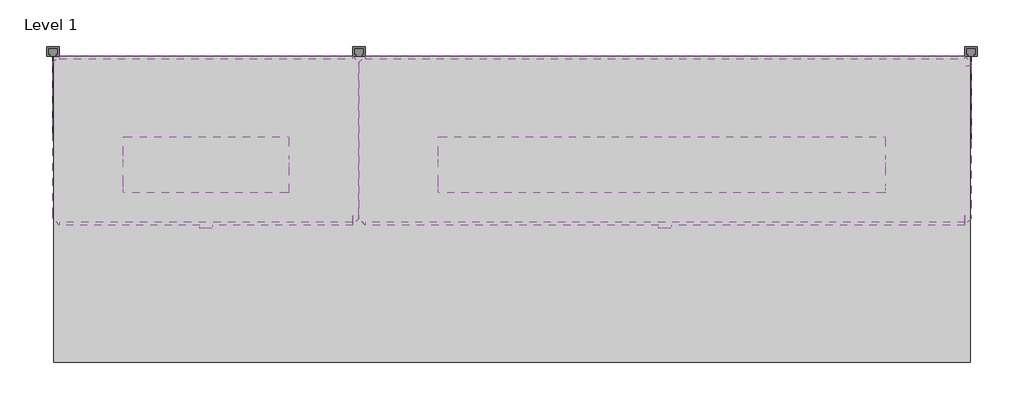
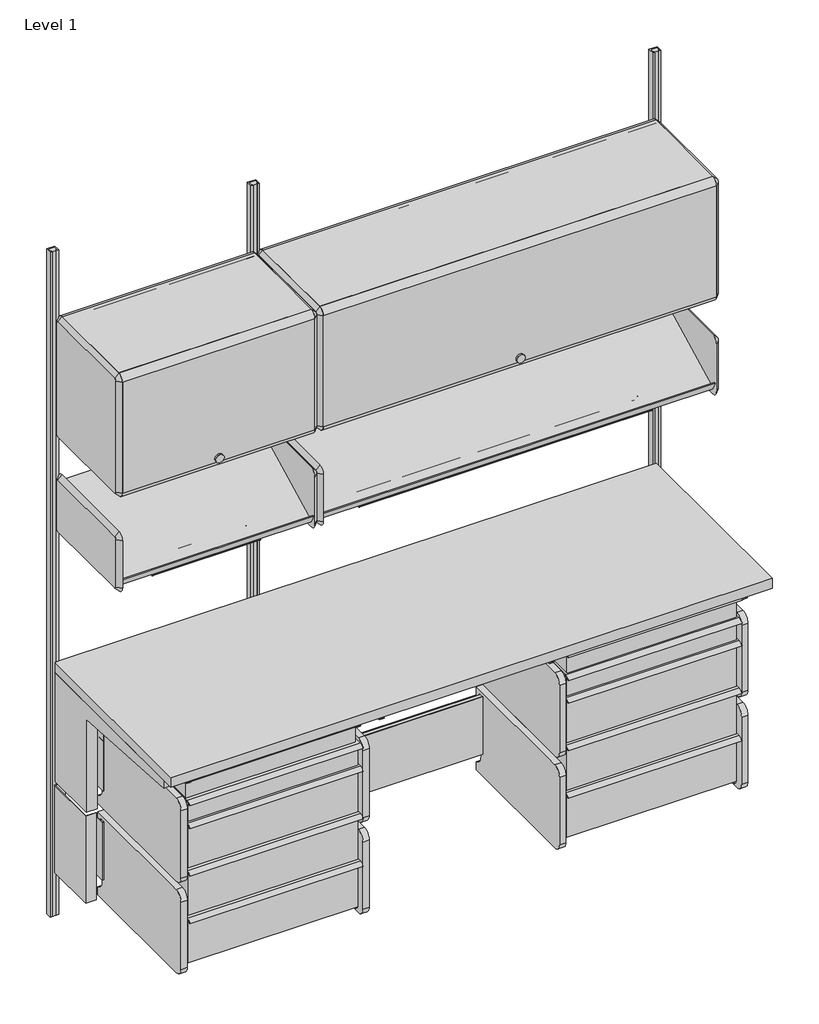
# One storey: 24 furniture elements, 2 light fixtures.
"""IFC4 building model written with IfcOpenShell, lengths in millimetres."""

from ifc_helpers import new_model, si_unit, origin, place, context, project, spatial, transform, mapped, element, save
from components import furniture_04291885, furniture_33cd207f, furniture_439dfb7c, furniture_42ff5c24, furniture_56be9a9d, furniture_dda152d5, furniture_3c95d147, furniture_88dc2ca2, furniture_03e73c74, furniture_fea97cc0, furniture_ea425779, a_3_959e08d9, a_3_3943aac6, b_6_f3207868, b_6_2be62e06, b_6_bdab6ed6, light_fixture_d29e1486, light_fixture_6c250f8a

model = new_model("IFC4")

# Units and contexts
model_context = context("Model", 3, world=origin())
ifc_project = project(units=[si_unit("LENGTHUNIT", "METRE", prefix="MILLI")], contexts=[model_context])

# Site, building, storey
site = spatial("IfcSite", under=ifc_project)
building = spatial("IfcBuilding", under=site)
storey = spatial("IfcBuildingStorey", under=building, Name="Level 1", Elevation=0.0)

# Furniture
placement = place(None, origin())
furniture_shape = furniture_04291885(model_context)
element("IfcFurniture", 1, ObjectType="HermanMiller_CoStruc_C2141_Heavy-DutyWorkSurface : 24\"D x 72\"W Lam", at=placement, inside=storey, context=model_context, shape_type="MappedRepresentation", body=[
    mapped(furniture_shape, transform((304.8, -196.85, 0.0), x_axis=(1.0, 0.0, 0.0), y_axis=(0.0, 1.0, 0.0), z_axis=(0.0, 0.0, 1.0))),
])
furniture_2_shape = furniture_33cd207f(model_context)
element("IfcFurniture", 2, ObjectType="HermanMiller_ActionOffice_A3352_B-StyleFlipperDoorUnit : 15 1/2\"H x 13\"D x 48\"W", at=placement, inside=storey, context=model_context, shape_type="MappedRepresentation", body=[
    mapped(furniture_2_shape, transform((1219.2, -200.025, 0.0), x_axis=(1.0, 0.0, 0.0), y_axis=(0.0, 1.0, 0.0), z_axis=(0.0, 0.0, 1.0))),
])
furniture_3_shape = furniture_439dfb7c(model_context)
element("IfcFurniture", 3, ObjectType="HermanMiller_ActionOffice_A3220_B-StyleStorageDisplay : Display 13\"D x 48\"W", at=placement, inside=storey, context=model_context, shape_type="MappedRepresentation", body=[
    mapped(furniture_3_shape, transform((1343.1420045, -200.025, 0.0), x_axis=(1.0, 0.0, 0.0), y_axis=(0.0, 1.0, 0.0), z_axis=(0.0, 0.0, 1.0))),
])
furniture_4_shape = furniture_42ff5c24(model_context)
element("IfcFurniture", 4, ObjectType="HermanMiller_CoStruc_CO205_CFrame : 10\"H x 17\"D x 22\"W", at=placement, inside=storey, context=model_context, shape_type="MappedRepresentation", body=[
    mapped(furniture_4_shape, transform((228.8437151, -262.0663197, 0.0), x_axis=(1.0, 0.0, 0.0), y_axis=(0.0, 1.0, 0.0), z_axis=(0.0, 0.0, 1.0))),
])
furniture_5_shape = furniture_56be9a9d(model_context)
element("IfcFurniture", 5, ObjectType="HermanMiller_CoStruc_CO205_CFrame : 10\"H x 17\"D x 22\"W", at=placement, inside=storey, context=model_context, shape_type="MappedRepresentation", body=[
    mapped(furniture_5_shape, transform((228.8437151, -262.0663197, 0.0), x_axis=(1.0, 0.0, 0.0), y_axis=(0.0, 1.0, 0.0), z_axis=(0.0, 0.0, 1.0))),
])
element("IfcFurniture", 6, ObjectType="HermanMiller_CoStruc_CO205_CFrame : 10\"H x 17\"D x 22\"W", at=placement, inside=storey, context=model_context, shape_type="MappedRepresentation", body=[
    mapped(furniture_5_shape, transform((1378.1937151, -262.0663197, 0.0), x_axis=(1.0, 0.0, 0.0), y_axis=(0.0, 1.0, 0.0), z_axis=(0.0, 0.0, 1.0))),
])
furniture_6_shape = furniture_dda152d5(model_context)
element("IfcFurniture", 7, ObjectType="HermanMiller_CoStruc_CO205_CFrame : 10\"H x 17\"D x 22\"W", at=placement, inside=storey, context=model_context, shape_type="MappedRepresentation", body=[
    mapped(furniture_6_shape, transform((1378.1937151, -262.0663197, 0.0), x_axis=(1.0, 0.0, 0.0), y_axis=(0.0, 1.0, 0.0), z_axis=(0.0, 0.0, 1.0))),
])
furniture_7_shape = furniture_3c95d147(model_context)
element("IfcFurniture", 8, ObjectType="HermanMiller_CoStruc_C2192_CFrameSupport : 11\"H x 24\"D x 72\"W", at=placement, inside=storey, context=model_context, shape_type="MappedRepresentation", body=[
    mapped(furniture_7_shape, transform((914.4, 107.15625, 0.0), x_axis=(1.0, 0.0, 0.0), y_axis=(0.0, 1.0, 0.0), z_axis=(0.0, 0.0, 1.0))),
])
furniture_8_shape = furniture_88dc2ca2(model_context)
element("IfcFurniture", 9, ObjectType="HermanMiller_CoStruc_C2140W_WorkSurfaceSupport_ComponentAdaptor : 14\"H x 24\"D x 72\"W", at=placement, inside=storey, context=model_context, shape_type="MappedRepresentation", body=[
    mapped(furniture_8_shape, transform((914.4, -196.85, 0.0), x_axis=(1.0, 0.0, 0.0), y_axis=(0.0, 1.0, 0.0), z_axis=(0.0, 0.0, 1.0))),
])
furniture_9_shape = furniture_03e73c74(model_context)
element("IfcFurniture", 10, ObjectType="HermanMiller_ActionOffice_A3220_B-StyleStorageDisplay : Display 13\"D x 24\"W", at=placement, inside=storey, context=model_context, shape_type="MappedRepresentation", body=[
    mapped(furniture_9_shape, transform((428.7420045, -200.025, 0.0), x_axis=(1.0, 0.0, 0.0), y_axis=(0.0, 1.0, 0.0), z_axis=(0.0, 0.0, 1.0))),
])
furniture_10_shape = furniture_fea97cc0(model_context)
element("IfcFurniture", 11, ObjectType="HermanMiller_ActionOffice_A3352_B-StyleFlipperDoorUnit : 15 1/2\"H x 13\"D x 24\"W", at=placement, inside=storey, context=model_context, shape_type="MappedRepresentation", body=[
    mapped(furniture_10_shape, transform((304.8, -200.025, 0.0), x_axis=(1.0, 0.0, 0.0), y_axis=(0.0, 1.0, 0.0), z_axis=(0.0, 0.0, 1.0))),
])
furniture_11_shape = furniture_ea425779(model_context)
element("IfcFurniture", 12, ObjectType="HermanMiller_ActionOffice_AO213_WallStrip : 84\"H", at=placement, inside=storey, context=model_context, shape_type="MappedRepresentation", body=[
    mapped(furniture_11_shape, transform((1828.8, 0.0200145, 0.0), x_axis=(1.0, 0.0, 0.0), y_axis=(0.0, 1.0, 0.0), z_axis=(0.0, 0.0, 1.0))),
])
element("IfcFurniture", 13, ObjectType="HermanMiller_ActionOffice_AO213_WallStrip : 84\"H", at=placement, inside=storey, context=model_context, shape_type="MappedRepresentation", body=[
    mapped(furniture_11_shape, transform((609.6, 0.0, 0.0), x_axis=(1.0, 0.0, 0.0), y_axis=(0.0, 1.0, 0.0), z_axis=(0.0, 0.0, 1.0))),
])
element("IfcFurniture", 14, ObjectType="HermanMiller_ActionOffice_AO213_WallStrip : 84\"H", at=placement, inside=storey, context=model_context, shape_type="MappedRepresentation", body=[
    mapped(furniture_11_shape, transform((0.0, 0.0, 0.0), x_axis=(1.0, 0.0, 0.0), y_axis=(0.0, 1.0, 0.0), z_axis=(0.0, 0.0, 1.0))),
])
a_3_shape = a_3_959e08d9(model_context)
element("IfcFurniture", 15, ObjectType="HermanMiller_CoStruc_CO207_Drawer : A - 3", at=placement, inside=storey, context=model_context, shape_type="MappedRepresentation", body=[
    mapped(a_3_shape, transform((328.4638717, -423.88282, 0.0), x_axis=(1.0, 0.0, 0.0), y_axis=(0.0, 1.0, 0.0), z_axis=(0.0, 0.0, 1.0))),
])
element("IfcFurniture", 16, ObjectType="HermanMiller_CoStruc_CO207_Drawer : A - 3", at=placement, inside=storey, context=model_context, shape_type="MappedRepresentation", body=[
    mapped(a_3_shape, transform((1477.8138717, -423.88282, 0.0), x_axis=(1.0, 0.0, 0.0), y_axis=(0.0, 1.0, 0.0), z_axis=(0.0, 0.0, 1.0))),
])
a_3_2_shape = a_3_3943aac6(model_context)
element("IfcFurniture", 17, ObjectType="HermanMiller_CoStruc_CO207_Drawer : A - 3", at=placement, inside=storey, context=model_context, shape_type="MappedRepresentation", body=[
    mapped(a_3_2_shape, transform((323.7140717, -418.63518, 0.0), x_axis=(1.0, 0.0, 0.0), y_axis=(0.0, 1.0, 0.0), z_axis=(0.0, 0.0, 1.0))),
])
element("IfcFurniture", 18, ObjectType="HermanMiller_CoStruc_CO207_Drawer : A - 3", at=placement, inside=storey, context=model_context, shape_type="MappedRepresentation", body=[
    mapped(a_3_2_shape, transform((1477.8138717, -423.88282, 0.0), x_axis=(1.0, 0.0, 0.0), y_axis=(0.0, 1.0, 0.0), z_axis=(0.0, 0.0, 1.0))),
])
b_6_shape = b_6_f3207868(model_context)
element("IfcFurniture", 19, ObjectType="HermanMiller_CoStruc_CO207_Drawer : B - 6", at=placement, inside=storey, context=model_context, shape_type="MappedRepresentation", body=[
    mapped(b_6_shape, transform((328.4638717, -423.88282, 0.0), x_axis=(1.0, 0.0, 0.0), y_axis=(0.0, 1.0, 0.0), z_axis=(0.0, 0.0, 1.0))),
])
element("IfcFurniture", 20, ObjectType="HermanMiller_CoStruc_CO207_Drawer : B - 6", at=placement, inside=storey, context=model_context, shape_type="MappedRepresentation", body=[
    mapped(b_6_shape, transform((1477.8138717, -423.88282, 0.0), x_axis=(1.0, 0.0, 0.0), y_axis=(0.0, 1.0, 0.0), z_axis=(0.0, 0.0, 1.0))),
])
b_6_2_shape = b_6_2be62e06(model_context)
element("IfcFurniture", 21, ObjectType="HermanMiller_CoStruc_CO207_Drawer : B - 6", at=placement, inside=storey, context=model_context, shape_type="MappedRepresentation", body=[
    mapped(b_6_2_shape, transform((328.4638717, -423.88282, 0.0), x_axis=(1.0, 0.0, 0.0), y_axis=(0.0, 1.0, 0.0), z_axis=(0.0, 0.0, 1.0))),
])
element("IfcFurniture", 22, ObjectType="HermanMiller_CoStruc_CO207_Drawer : B - 6", at=placement, inside=storey, context=model_context, shape_type="MappedRepresentation", body=[
    mapped(b_6_2_shape, transform((1477.8138717, -423.88282, 0.0), x_axis=(1.0, 0.0, 0.0), y_axis=(0.0, 1.0, 0.0), z_axis=(0.0, 0.0, 1.0))),
])
b_6_3_shape = b_6_bdab6ed6(model_context)
element("IfcFurniture", 23, ObjectType="HermanMiller_CoStruc_CO207_Drawer : B - 6", at=placement, inside=storey, context=model_context, shape_type="MappedRepresentation", body=[
    mapped(b_6_3_shape, transform((328.4638717, -423.88282, 0.0), x_axis=(1.0, 0.0, 0.0), y_axis=(0.0, 1.0, 0.0), z_axis=(0.0, 0.0, 1.0))),
])
element("IfcFurniture", 24, ObjectType="HermanMiller_CoStruc_CO207_Drawer : B - 6", at=placement, inside=storey, context=model_context, shape_type="MappedRepresentation", body=[
    mapped(b_6_3_shape, transform((1477.8138717, -423.88282, 0.0), x_axis=(1.0, 0.0, 0.0), y_axis=(0.0, 1.0, 0.0), z_axis=(0.0, 0.0, 1.0))),
])

# Light fixtures
light_fixture_shape = light_fixture_d29e1486(model_context)
element("IfcLightFixture", 25, ObjectType="HermanMiller_SupplementalProducts_G6136_UtilityTaskLight : AO Etho Canvas 42W", at=placement, inside=storey, context=model_context, shape_type="MappedRepresentation", body=[
    mapped(light_fixture_shape, transform((1212.78142, -235.58246, 0.0), x_axis=(1.0, 0.0, 0.0), y_axis=(0.0, 1.0, 0.0), z_axis=(0.0, 0.0, 1.0))),
])
light_fixture_2_shape = light_fixture_6c250f8a(model_context)
element("IfcLightFixture", 26, ObjectType="HermanMiller_SupplementalProducts_G6136_UtilityTaskLight : AO Etho Canvas 24W", at=placement, inside=storey, context=model_context, shape_type="MappedRepresentation", body=[
    mapped(light_fixture_2_shape, transform((304.8, -235.58246, 0.0), x_axis=(1.0, 0.0, 0.0), y_axis=(0.0, 1.0, 0.0), z_axis=(0.0, 0.0, 1.0))),
])

save(model, "model.ifc")
